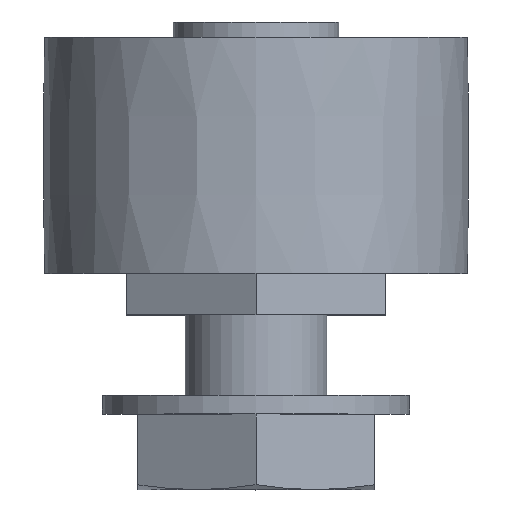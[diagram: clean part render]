
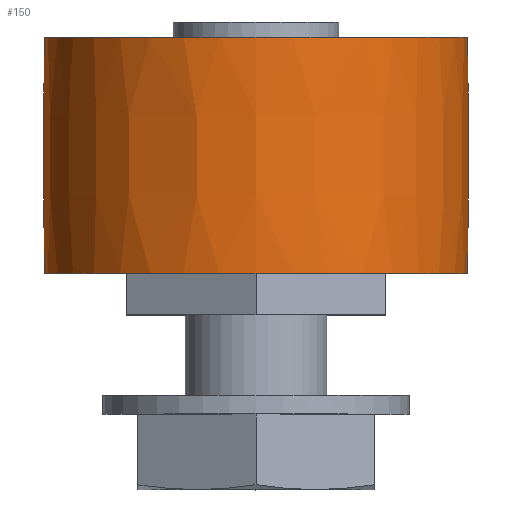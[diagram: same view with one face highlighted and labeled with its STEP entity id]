
A CAD part, top view. The second image highlights one B-rep face of the part: STEP entity #150.
In plain terms, the highlighted free-form (B-spline) face has degree [3, 3] with [4, 7] control points.
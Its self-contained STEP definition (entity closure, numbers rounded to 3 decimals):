
#150 = ADVANCED_FACE( '', ( #217, #218 ), #219, .T. );
#217 = FACE_OUTER_BOUND( '', #309, .T. );
#218 = FACE_OUTER_BOUND( '', #310, .T. );
#219 = ( BOUNDED_SURFACE(  )B_SPLINE_SURFACE( 3, 3, ( ( #313, #314, #315, #316, #317, #318, #319 ), ( #320, #321, #322, #323, #324, #325, #326 ), ( #327, #328, #329, #330, #331, #332, #333 ), ( #334, #335, #336, #337, #338, #339, #340 ) ), .UNSPECIFIED., .F., .T., .F. )B_SPLINE_SURFACE_WITH_KNOTS( ( 4, 4 ), ( 4, 3, 4 ), ( 0., 6.283 ), ( -0.02, 0., 0.02 ), .UNSPECIFIED. )GEOMETRIC_REPRESENTATION_ITEM(  )RATIONAL_B_SPLINE_SURFACE( ( ( 1., 0.333, 0.333, 1., 0.333, 0.333, 1. ), ( 1., 0.333, 0.333, 1., 0.333, 0.333, 1. ), ( 1., 0.333, 0.333, 1., 0.333, 0.333, 1. ), ( 1., 0.333, 0.333, 1., 0.333, 0.333, 1. ) ) )REPRESENTATION_ITEM( '' )SURFACE(  ) );
#309 = EDGE_LOOP( '', ( #511 ) );
#310 = EDGE_LOOP( '', ( #512 ) );
#313 = CARTESIAN_POINT( '', ( 0., 1.75, -8.95 ) );
#314 = CARTESIAN_POINT( '', ( 17.9, 1.75, -8.95 ) );
#315 = CARTESIAN_POINT( '', ( 17.9, 1.75, 8.95 ) );
#316 = CARTESIAN_POINT( '', ( 0., 1.75, 8.95 ) );
#317 = CARTESIAN_POINT( '', ( -17.9, 1.75, 8.95 ) );
#318 = CARTESIAN_POINT( '', ( -17.9, 1.75, -8.95 ) );
#319 = CARTESIAN_POINT( '', ( 0., 1.75, -8.95 ) );
#320 = CARTESIAN_POINT( '', ( 0., 5.083, -9.017 ) );
#321 = CARTESIAN_POINT( '', ( 18.033, 5.083, -9.017 ) );
#322 = CARTESIAN_POINT( '', ( 18.033, 5.083, 9.017 ) );
#323 = CARTESIAN_POINT( '', ( 0., 5.083, 9.017 ) );
#324 = CARTESIAN_POINT( '', ( -18.033, 5.083, 9.017 ) );
#325 = CARTESIAN_POINT( '', ( -18.033, 5.083, -9.017 ) );
#326 = CARTESIAN_POINT( '', ( 0., 5.083, -9.017 ) );
#327 = CARTESIAN_POINT( '', ( 0., 8.417, -9.017 ) );
#328 = CARTESIAN_POINT( '', ( 18.033, 8.417, -9.017 ) );
#329 = CARTESIAN_POINT( '', ( 18.033, 8.417, 9.017 ) );
#330 = CARTESIAN_POINT( '', ( 0., 8.417, 9.017 ) );
#331 = CARTESIAN_POINT( '', ( -18.033, 8.417, 9.017 ) );
#332 = CARTESIAN_POINT( '', ( -18.033, 8.417, -9.017 ) );
#333 = CARTESIAN_POINT( '', ( 0., 8.417, -9.017 ) );
#334 = CARTESIAN_POINT( '', ( 0., 11.75, -8.95 ) );
#335 = CARTESIAN_POINT( '', ( 17.9, 11.75, -8.95 ) );
#336 = CARTESIAN_POINT( '', ( 17.9, 11.75, 8.95 ) );
#337 = CARTESIAN_POINT( '', ( 0., 11.75, 8.95 ) );
#338 = CARTESIAN_POINT( '', ( -17.9, 11.75, 8.95 ) );
#339 = CARTESIAN_POINT( '', ( -17.9, 11.75, -8.95 ) );
#340 = CARTESIAN_POINT( '', ( 0., 11.75, -8.95 ) );
#511 = ORIENTED_EDGE( '', *, *, #703, .T. );
#512 = ORIENTED_EDGE( '', *, *, #704, .F. );
#703 = EDGE_CURVE( '', #816, #816, #817, .T. );
#704 = EDGE_CURVE( '', #818, #818, #819, .T. );
#816 = VERTEX_POINT( '', #988 );
#817 = CIRCLE( '', #989, 8.95 );
#818 = VERTEX_POINT( '', #990 );
#819 = CIRCLE( '', #991, 8.95 );
#988 = CARTESIAN_POINT( '', ( 0., 11.75, -8.95 ) );
#989 = AXIS2_PLACEMENT_3D( '', #1149, #1150, #1151 );
#990 = CARTESIAN_POINT( '', ( 0., 1.75, -8.95 ) );
#991 = AXIS2_PLACEMENT_3D( '', #1152, #1153, #1154 );
#1149 = CARTESIAN_POINT( '', ( 0., 11.75, 0. ) );
#1150 = DIRECTION( '', ( 0., -1., 0. ) );
#1151 = DIRECTION( '', ( 0., 0., -1. ) );
#1152 = CARTESIAN_POINT( '', ( 0., 1.75, 0. ) );
#1153 = DIRECTION( '', ( 0., -1., 0. ) );
#1154 = DIRECTION( '', ( 0., 0., -1. ) );
